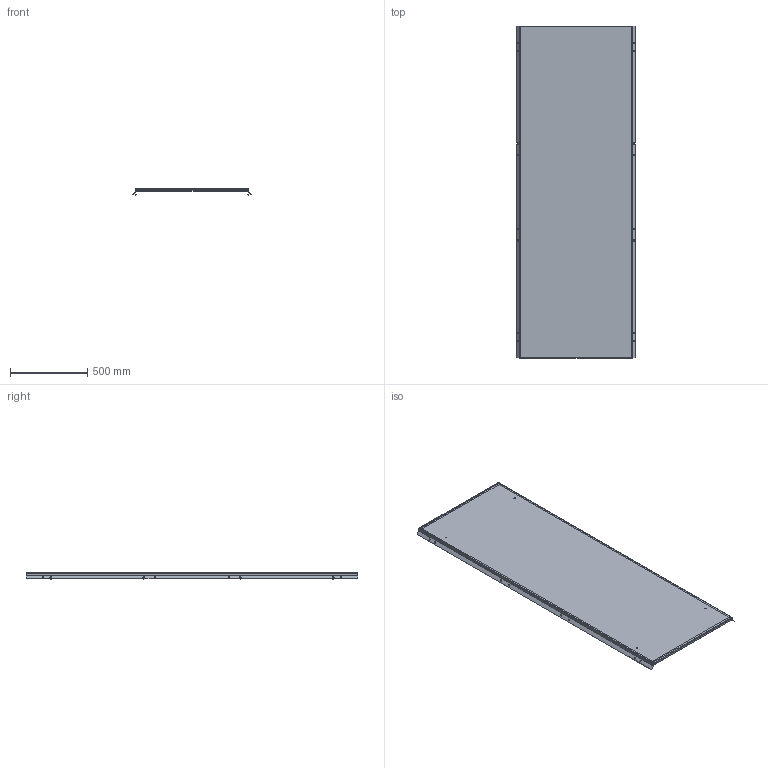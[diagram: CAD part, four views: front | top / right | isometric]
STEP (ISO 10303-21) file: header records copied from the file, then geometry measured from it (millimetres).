
FILE_DESCRIPTION (( 'STEP AP203' ), '1' );
FILE_NAME ('MA1.200.080622.10.00 AleSta-PR228 Ïàíåëü çàäíÿÿ, äëÿ øêàôîâ ALESTA, 2200 x 800.STEP', '2025-02-19T15:17:32', ( '' ), ( '' ), 'SwSTEP 2.0', 'SolidWorks 2021', '' );
FILE_SCHEMA (( 'CONFIG_CONTROL_DESIGN' ));
Length unit declared in the file: millimetre
Products named in the file (6): Óïëîòíèòåëü ïàíåëè íèæíåé_ ‚=2200; MA1.200.080622.10.00 AleSta-PR228  Ïàíåëü çàäíÿÿ, äëÿ øêàôîâ ALESTA, 2200 x 800; Âèíò ñàìîíàðåçàþùèé ñ ïîòàéíîé ãîëîâêîé Ì5x16 DIN 7500 M TORX, êëàññ ïðî÷íîñòè 8.8, îöèíêîâàííàÿ ñòàëü_Œ5å16; Øïèëüêà Ì6õ12_˜¯¨«ìª  Œ6å12; MA1.200.060620.11.01 Ïîëîòíî çàäíåé ïàíåëè 2000õ600_2200å800; MA1.200.060620.11.00 Ïàíåëü çàäíÿÿ, äëÿ øêàôîâ AleSta, 2000x600_2200å800
Assembly tree (15 placements, depth 3):
  MA1.200.080622.10.00 AleSta-PR228  Ïàíåëü çàäíÿÿ, äëÿ øêàôîâ ALESTA, 2200 x 800
    MA1.200.060620.11.00 Ïàíåëü çàäíÿÿ, äëÿ øêàôîâ AleSta, 2000x600_2200å800
      MA1.200.060620.11.01 Ïîëîòíî çàäíåé ïàíåëè 2000õ600_2200å800
      Óïëîòíèòåëü ïàíåëè íèæíåé_ ‚=2200
      Øïèëüêà Ì6õ12_˜¯¨«ìª  Œ6å12  x4
    Âèíò ñàìîíàðåçàþùèé ñ ïîòàéíîé ãîëîâêîé Ì5x16 DIN 7500 M TORX, êëàññ ïðî÷íîñòè 8.8, îöèíêîâàííàÿ ñòàëü_Œ5å16  x8
Bounding box: 765.31 x 2145 x 41.7 mm (x, y, z)
Volume: 2139947.8 mm3; surface area: 3744580.4 mm2
Topology: 14 solids, 14 shells, 544 faces, 1352 edges, 864 vertices
Faces by surface type: cylinder 304, plane 184, cone 40, bspline 8, torus 8
Entity records: 7885 total; most frequent: CARTESIAN_POINT 1623, DIRECTION 1165, ORIENTED_EDGE 1074, EDGE_CURVE 537, AXIS2_PLACEMENT_3D 424, VERTEX_POINT 332, LINE 317, VECTOR 317
